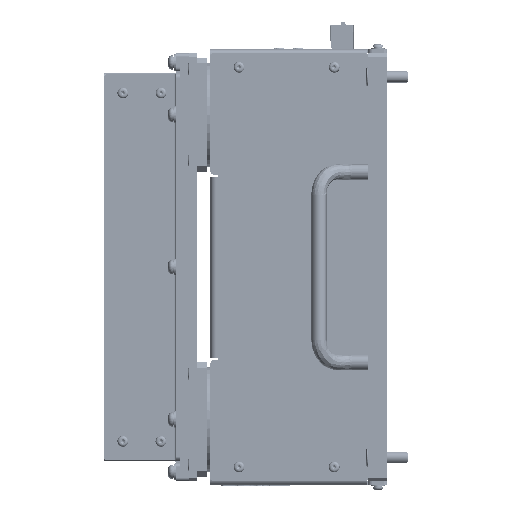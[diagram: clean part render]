
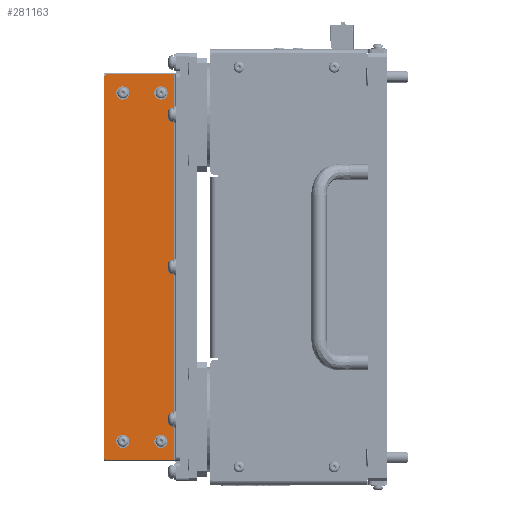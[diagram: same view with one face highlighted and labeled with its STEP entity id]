
A CAD part, left-side view. The second image highlights one B-rep face of the part: STEP entity #281163.
In plain terms, the highlighted planar face has unit normal (-1, 0, 0).
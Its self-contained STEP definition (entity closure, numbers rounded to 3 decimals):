
#8533 = ORIENTED_EDGE ( 'NONE', *, *, #423349, .T. ) ;
#8757 = FACE_BOUND ( 'NONE', #586746, .T. ) ;
#16374 = CIRCLE ( 'NONE', #485928, 1.7 ) ;
#20182 = CARTESIAN_POINT ( 'NONE',  ( -145.558, 97., -79.57 ) ) ;
#27911 = CARTESIAN_POINT ( 'NONE',  ( -145.558, 99., -79.57 ) ) ;
#33166 = DIRECTION ( 'NONE',  ( 1., 0., 0. ) ) ;
#34393 = AXIS2_PLACEMENT_3D ( 'NONE', #481636, #33166, #479446 ) ;
#38479 = ORIENTED_EDGE ( 'NONE', *, *, #352730, .F. ) ;
#39046 = CIRCLE ( 'NONE', #510301, 1.7 ) ;
#40584 = EDGE_CURVE ( 'NONE', #579935, #395555, #341398, .T. ) ;
#48978 = ORIENTED_EDGE ( 'NONE', *, *, #305657, .T. ) ;
#51911 = VERTEX_POINT ( 'NONE', #617948 ) ;
#65841 = EDGE_CURVE ( 'NONE', #318943, #173242, #572758, .T. ) ;
#71863 = CIRCLE ( 'NONE', #598527, 2. ) ;
#71915 = FACE_BOUND ( 'NONE', #587527, .T. ) ;
#75135 = VERTEX_POINT ( 'NONE', #27911 ) ;
#81195 = DIRECTION ( 'NONE',  ( 0., 0., 1. ) ) ;
#82752 = VECTOR ( 'NONE', #607718, 1000. ) ;
#83029 = EDGE_CURVE ( 'NONE', #201348, #137530, #39046, .T. ) ;
#87288 = ORIENTED_EDGE ( 'NONE', *, *, #231329, .F. ) ;
#87666 = FACE_OUTER_BOUND ( 'NONE', #395766, .T. ) ;
#108032 = ORIENTED_EDGE ( 'NONE', *, *, #83029, .F. ) ;
#114284 = LINE ( 'NONE', #500397, #82752 ) ;
#121693 = CIRCLE ( 'NONE', #189547, 1.7 ) ;
#136368 = PLANE ( 'NONE',  #34393 ) ;
#137530 = VERTEX_POINT ( 'NONE', #373727 ) ;
#138192 = EDGE_CURVE ( 'NONE', #437975, #629614, #267525, .T. ) ;
#139511 = DIRECTION ( 'NONE',  ( -1., 0., 0. ) ) ;
#140412 = CARTESIAN_POINT ( 'NONE',  ( -145.558, 69., 111.43 ) ) ;
#159135 = DIRECTION ( 'NONE',  ( -1., 0., 0. ) ) ;
#166221 = DIRECTION ( 'NONE',  ( 0., -1., 0. ) ) ;
#166392 = EDGE_CURVE ( 'NONE', #579935, #578454, #114284, .T. ) ;
#167666 = CARTESIAN_POINT ( 'NONE',  ( -145.558, 62., 121.43 ) ) ;
#168672 = CARTESIAN_POINT ( 'NONE',  ( -145.558, 69., 109.73 ) ) ;
#171373 = CIRCLE ( 'NONE', #344645, 1.7 ) ;
#173242 = VERTEX_POINT ( 'NONE', #440649 ) ;
#175034 = ORIENTED_EDGE ( 'NONE', *, *, #387180, .F. ) ;
#184845 = CARTESIAN_POINT ( 'NONE',  ( -145.558, 97., 121.43 ) ) ;
#189547 = AXIS2_PLACEMENT_3D ( 'NONE', #308861, #159135, #363697 ) ;
#194466 = EDGE_LOOP ( 'NONE', ( #443566, #175034 ) ) ;
#197152 = CARTESIAN_POINT ( 'NONE',  ( -145.558, 97., 119.43 ) ) ;
#201286 = CARTESIAN_POINT ( 'NONE',  ( -145.558, 69., -73.27 ) ) ;
#201348 = VERTEX_POINT ( 'NONE', #207786 ) ;
#202938 = CARTESIAN_POINT ( 'NONE',  ( -145.558, 89., -71.57 ) ) ;
#207786 = CARTESIAN_POINT ( 'NONE',  ( -145.558, 89., -73.27 ) ) ;
#218017 = EDGE_CURVE ( 'NONE', #75135, #308435, #268378, .T. ) ;
#218112 = CIRCLE ( 'NONE', #313337, 1.7 ) ;
#224756 = DIRECTION ( 'NONE',  ( -1., 0., 0. ) ) ;
#231329 = EDGE_CURVE ( 'NONE', #173242, #318943, #218112, .T. ) ;
#234564 = ORIENTED_EDGE ( 'NONE', *, *, #40584, .F. ) ;
#253520 = DIRECTION ( 'NONE',  ( -1., 0., 0. ) ) ;
#254850 = DIRECTION ( 'NONE',  ( 0., 0., 1. ) ) ;
#267525 = CIRCLE ( 'NONE', #614181, 1.7 ) ;
#268378 = CIRCLE ( 'NONE', #591035, 2. ) ;
#279335 = EDGE_CURVE ( 'NONE', #629614, #437975, #171373, .T. ) ;
#281163 = ADVANCED_FACE ( 'NONE', ( #8757, #417705, #566894, #71915, #87666 ), #136368, .F. ) ;
#283326 = AXIS2_PLACEMENT_3D ( 'NONE', #511782, #362408, #254850 ) ;
#289396 = DIRECTION ( 'NONE',  ( -1., 0., 0. ) ) ;
#292691 = DIRECTION ( 'NONE',  ( 0., 0., -1. ) ) ;
#301110 = VERTEX_POINT ( 'NONE', #550744 ) ;
#305366 = ORIENTED_EDGE ( 'NONE', *, *, #279335, .F. ) ;
#305657 = EDGE_CURVE ( 'NONE', #578454, #51911, #71863, .T. ) ;
#308435 = VERTEX_POINT ( 'NONE', #429735 ) ;
#308861 = CARTESIAN_POINT ( 'NONE',  ( -145.558, 89., 111.43 ) ) ;
#313337 = AXIS2_PLACEMENT_3D ( 'NONE', #140412, #492174, #81195 ) ;
#318943 = VERTEX_POINT ( 'NONE', #168672 ) ;
#322273 = LINE ( 'NONE', #341000, #376448 ) ;
#329939 = CARTESIAN_POINT ( 'NONE',  ( -145.558, 62., 121.43 ) ) ;
#341000 = CARTESIAN_POINT ( 'NONE',  ( -145.558, 99., -81.57 ) ) ;
#341398 = LINE ( 'NONE', #167666, #522385 ) ;
#342022 = DIRECTION ( 'NONE',  ( 0., 0., 1. ) ) ;
#344645 = AXIS2_PLACEMENT_3D ( 'NONE', #437305, #590906, #395445 ) ;
#352730 = EDGE_CURVE ( 'NONE', #137530, #201348, #509884, .T. ) ;
#354590 = DIRECTION ( 'NONE',  ( 0., 0., 1. ) ) ;
#362408 = DIRECTION ( 'NONE',  ( -1., 0., 0. ) ) ;
#363697 = DIRECTION ( 'NONE',  ( 0., 0., 1. ) ) ;
#365838 = EDGE_LOOP ( 'NONE', ( #563979, #305366 ) ) ;
#367467 = CARTESIAN_POINT ( 'NONE',  ( -145.558, 89., -71.57 ) ) ;
#368422 = ORIENTED_EDGE ( 'NONE', *, *, #218017, .T. ) ;
#373727 = CARTESIAN_POINT ( 'NONE',  ( -145.558, 89., -69.87 ) ) ;
#376448 = VECTOR ( 'NONE', #292691, 1000. ) ;
#387180 = EDGE_CURVE ( 'NONE', #397335, #301110, #16374, .T. ) ;
#395445 = DIRECTION ( 'NONE',  ( 0., 0., 1. ) ) ;
#395555 = VERTEX_POINT ( 'NONE', #646648 ) ;
#395766 = EDGE_LOOP ( 'NONE', ( #8533, #368422, #608340, #234564, #431854, #48978 ) ) ;
#397335 = VERTEX_POINT ( 'NONE', #413750 ) ;
#399701 = LINE ( 'NONE', #421275, #564609 ) ;
#401240 = EDGE_CURVE ( 'NONE', #301110, #397335, #121693, .T. ) ;
#413750 = CARTESIAN_POINT ( 'NONE',  ( -145.558, 89., 109.73 ) ) ;
#417705 = FACE_BOUND ( 'NONE', #365838, .T. ) ;
#421275 = CARTESIAN_POINT ( 'NONE',  ( -145.558, 59., -81.57 ) ) ;
#422587 = DIRECTION ( 'NONE',  ( 0., 0., -1. ) ) ;
#423349 = EDGE_CURVE ( 'NONE', #51911, #75135, #322273, .T. ) ;
#429735 = CARTESIAN_POINT ( 'NONE',  ( -145.558, 97., -81.57 ) ) ;
#431854 = ORIENTED_EDGE ( 'NONE', *, *, #166392, .T. ) ;
#437305 = CARTESIAN_POINT ( 'NONE',  ( -145.558, 69., -71.57 ) ) ;
#437975 = VERTEX_POINT ( 'NONE', #504854 ) ;
#440649 = CARTESIAN_POINT ( 'NONE',  ( -145.558, 69., 113.13 ) ) ;
#443566 = ORIENTED_EDGE ( 'NONE', *, *, #401240, .F. ) ;
#448837 = AXIS2_PLACEMENT_3D ( 'NONE', #202938, #253520, #354590 ) ;
#466328 = DIRECTION ( 'NONE',  ( 0., 0., 1. ) ) ;
#479446 = DIRECTION ( 'NONE',  ( 0., 0., -1. ) ) ;
#481636 = CARTESIAN_POINT ( 'NONE',  ( -145.558, 79., 19.93 ) ) ;
#485928 = AXIS2_PLACEMENT_3D ( 'NONE', #590210, #289396, #342022 ) ;
#491620 = DIRECTION ( 'NONE',  ( -1., 0., 0. ) ) ;
#492174 = DIRECTION ( 'NONE',  ( -1., 0., 0. ) ) ;
#500397 = CARTESIAN_POINT ( 'NONE',  ( -145.558, 59., 121.43 ) ) ;
#504854 = CARTESIAN_POINT ( 'NONE',  ( -145.558, 69., -69.87 ) ) ;
#509884 = CIRCLE ( 'NONE', #448837, 1.7 ) ;
#510301 = AXIS2_PLACEMENT_3D ( 'NONE', #367467, #615508, #466328 ) ;
#511782 = CARTESIAN_POINT ( 'NONE',  ( -145.558, 69., 111.43 ) ) ;
#516302 = EDGE_CURVE ( 'NONE', #308435, #395555, #399701, .T. ) ;
#517251 = DIRECTION ( 'NONE',  ( 0., 0., -1. ) ) ;
#522385 = VECTOR ( 'NONE', #517251, 1000. ) ;
#542168 = DIRECTION ( 'NONE',  ( 0., 0., -1. ) ) ;
#550744 = CARTESIAN_POINT ( 'NONE',  ( -145.558, 89., 113.13 ) ) ;
#563084 = ORIENTED_EDGE ( 'NONE', *, *, #65841, .F. ) ;
#563979 = ORIENTED_EDGE ( 'NONE', *, *, #138192, .F. ) ;
#564609 = VECTOR ( 'NONE', #166221, 1000. ) ;
#566894 = FACE_BOUND ( 'NONE', #194466, .T. ) ;
#572758 = CIRCLE ( 'NONE', #283326, 1.7 ) ;
#578454 = VERTEX_POINT ( 'NONE', #184845 ) ;
#579935 = VERTEX_POINT ( 'NONE', #329939 ) ;
#586746 = EDGE_LOOP ( 'NONE', ( #38479, #108032 ) ) ;
#587527 = EDGE_LOOP ( 'NONE', ( #87288, #563084 ) ) ;
#590210 = CARTESIAN_POINT ( 'NONE',  ( -145.558, 89., 111.43 ) ) ;
#590906 = DIRECTION ( 'NONE',  ( -1., 0., 0. ) ) ;
#591035 = AXIS2_PLACEMENT_3D ( 'NONE', #20182, #224756, #422587 ) ;
#594413 = DIRECTION ( 'NONE',  ( 0., 0., 1. ) ) ;
#598527 = AXIS2_PLACEMENT_3D ( 'NONE', #197152, #491620, #542168 ) ;
#598762 = CARTESIAN_POINT ( 'NONE',  ( -145.558, 69., -71.57 ) ) ;
#607718 = DIRECTION ( 'NONE',  ( 0., 1., 0. ) ) ;
#608340 = ORIENTED_EDGE ( 'NONE', *, *, #516302, .T. ) ;
#614181 = AXIS2_PLACEMENT_3D ( 'NONE', #598762, #139511, #594413 ) ;
#615508 = DIRECTION ( 'NONE',  ( -1., 0., 0. ) ) ;
#617948 = CARTESIAN_POINT ( 'NONE',  ( -145.558, 99., 119.43 ) ) ;
#629614 = VERTEX_POINT ( 'NONE', #201286 ) ;
#646648 = CARTESIAN_POINT ( 'NONE',  ( -145.558, 62., -81.57 ) ) ;
